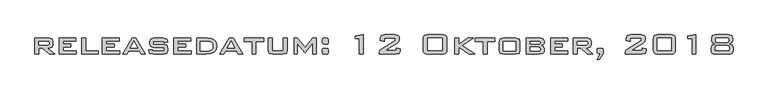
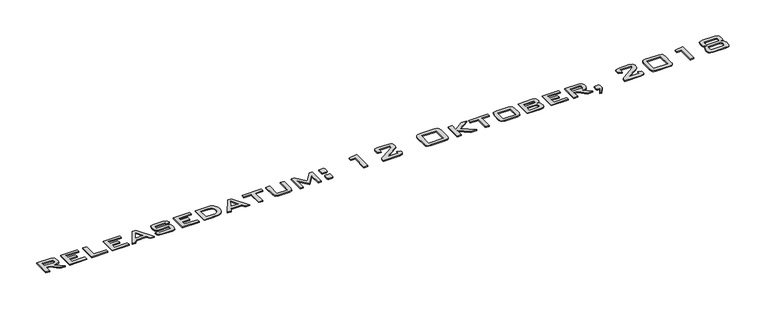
"""IFC4 building model written with IfcOpenShell, lengths in millimetres: flow terminal geometry, ondertitel : versie."""

from ifc_helpers import new_model, si_unit, origin, origin_with_axes, place, context, project, spatial, polyline, outline, extrude, source, transform, mapped, element, save


def flow_terminal_27e1411a(model_context):
    return source(origin(), model_context, "Body", "SweptSolid", [
        extrude(outline(polyline([(-295.5347853, 18.5696186), (-295.5347853, 101.316023), (-221.428821, 101.316023), (-207.1279466, 97.1850097), (-202.6973559, 83.7197983), (-202.6973559, 68.2994509), (-207.1279466, 54.9603773), (-221.428821, 50.8608984), (-232.6550862, 50.8608984), (-194.1830537, 18.5696186), (-222.6271302, 18.5696186), (-256.6843393, 50.8608984), (-275.3527354, 50.8608984), (-275.3527354, 18.5696186), (-295.5347853, 18.5696186)]), holes=[polyline([(-229.9115888, 85.1703832), (-275.3527354, 85.1703832), (-275.3527354, 67.0065383), (-229.9115888, 67.0065383), (-222.8005697, 68.2206147), (-220.8612008, 72.3043264), (-220.8612008, 79.8725951), (-222.8005697, 83.9563067), (-229.9115888, 85.1703832)])]), origin_with_axes(), (0.0, 0.0, 1.0), 5.0),
        extrude(outline(polyline([(-170.4060762, 18.5696186), (-170.4060762, 101.316023), (-83.6232618, 101.316023), (-83.6232618, 87.1885881), (-150.2240263, 87.1885881), (-150.2240263, 71.0429483), (-109.8599266, 71.0429483), (-109.8599266, 54.8973084), (-150.2240263, 54.8973084), (-150.2240263, 34.7152585), (-81.6050568, 34.7152585), (-81.6050568, 18.5696186), (-170.4060762, 18.5696186)])), origin_with_axes(), (0.0, 0.0, 1.0), 5.0),
        extrude(outline(polyline([(-53.350187, 18.5696186), (-53.350187, 101.316023), (-33.1681372, 101.316023), (-33.1681372, 34.7152585), (31.4144224, 34.7152585), (31.4144224, 18.5696186), (-53.350187, 18.5696186)])), origin_with_axes(), (0.0, 0.0, 1.0), 5.0),
        extrude(outline(polyline([(53.6146772, 18.5696186), (53.6146772, 101.316023), (140.3974916, 101.316023), (140.3974916, 87.1885881), (73.7967271, 87.1885881), (73.7967271, 71.0429483), (114.1608268, 71.0429483), (114.1608268, 54.8973084), (73.7967271, 54.8973084), (73.7967271, 34.7152585), (142.4156966, 34.7152585), (142.4156966, 18.5696186), (53.6146772, 18.5696186)])), origin_with_axes(), (0.0, 0.0, 1.0), 5.0),
        extrude(outline(polyline([(158.5613364, 18.5696186), (207.1243939, 101.316023), (226.2973413, 101.316023), (275.6172256, 18.5696186), (253.227764, 18.5696186), (242.9159979, 34.7152585), (188.8028768, 34.7152585), (178.4911107, 18.5696186), (158.5613364, 18.5696186)]), holes=[polyline([(197.2856446, 50.8608984), (234.8116435, 50.8608984), (215.7332995, 86.0218134), (197.2856446, 50.8608984)])]), origin_with_axes(), (0.0, 0.0, 1.0), 5.0),
        extrude(outline(polyline([(372.4910649, 85.1703832), (315.9813253, 85.1703832), (315.9813253, 69.0247433), (369.4637574, 69.0247433), (386.3189225, 64.8779627), (390.6549097, 49.094969), (390.6549097, 38.1209794), (386.2243191, 22.6690975), (369.4637574, 18.5696186), (316.170532, 18.5696186), (298.4324023, 22.6690975), (294.9439034, 28.5818074), (293.7810705, 38.1209794), (293.7810705, 40.0130466), (311.9449153, 42.7880785), (311.9449153, 34.7152585), (372.4910649, 34.7152585), (372.4910649, 52.8791034), (319.4816496, 52.8791034), (302.2953727, 57.0101167), (297.8174804, 72.3358608), (297.8174804, 80.913232), (302.2953727, 96.9642685), (319.4816496, 101.316023), (368.2339137, 101.316023), (385.8932074, 97.1219408), (389.4644842, 91.3196015), (390.6549097, 82.3007479), (390.6549097, 80.4717497), (372.4910649, 77.0975632), (372.4910649, 85.1703832)])), origin_with_axes(), (0.0, 0.0, 1.0), 5.0),
        extrude(outline(polyline([(422.9461895, 18.5696186), (422.9461895, 101.316023), (509.7290039, 101.316023), (509.7290039, 87.1885881), (443.1282394, 87.1885881), (443.1282394, 71.0429483), (483.4923391, 71.0429483), (483.4923391, 54.8973084), (443.1282394, 54.8973084), (443.1282394, 34.7152585), (511.7472089, 34.7152585), (511.7472089, 18.5696186), (422.9461895, 18.5696186)])), origin_with_axes(), (0.0, 0.0, 1.0), 5.0),
        extrude(outline(polyline([(540.0020787, 18.5696186), (540.0020787, 101.316023), (595.6919225, 101.316023), (616.7096353, 98.6513618), (632.2088189, 90.657378), (641.7637582, 77.7203687), (644.9487379, 60.2266309), (641.5706096, 42.0115426), (631.4362248, 28.9917553), (614.474631, 21.1751528), (590.6148756, 18.5696186), (540.0020787, 18.5696186)]), holes=[polyline([(560.1841285, 34.7152585), (586.2946555, 34.7152585), (604.466384, 36.2092032), (616.2208513, 40.6910374), (622.6302289, 48.7126138), (624.7666881, 60.8257855), (622.9928751, 71.5553831), (617.6714361, 79.1473027), (608.6762335, 83.664613), (595.8811292, 85.1703832), (560.1841285, 85.1703832), (560.1841285, 34.7152585)])]), origin_with_axes(), (0.0, 0.0, 1.0), 5.0),
        extrude(outline(polyline([(661.0943778, 18.5696186), (709.6574352, 101.316023), (728.8303826, 101.316023), (778.1502669, 18.5696186), (755.7608054, 18.5696186), (745.4490393, 34.7152585), (691.3359181, 34.7152585), (681.024152, 18.5696186), (661.0943778, 18.5696186)]), holes=[polyline([(699.8186859, 50.8608984), (737.3446849, 50.8608984), (718.2663409, 86.0218134), (699.8186859, 50.8608984)])]), origin_with_axes(), (0.0, 0.0, 1.0), 5.0),
        extrude(outline(polyline([(846.7692364, 85.1703832), (846.7692364, 18.5696186), (826.5871866, 18.5696186), (826.5871866, 85.1703832), (786.2230869, 85.1703832), (786.2230869, 101.316023), (887.1333361, 101.316023), (887.1333361, 85.1703832), (846.7692364, 85.1703832)])), origin_with_axes(), (0.0, 0.0, 1.0), 5.0),
        extrude(outline(polyline([(931.5338458, 101.316023), (931.5338458, 34.7152585), (988.0435854, 34.7152585), (988.0435854, 101.316023), (1008.2256353, 101.316023), (1008.2256353, 38.783203), (1003.7319757, 22.8583042), (986.624535, 18.5696186), (932.9528962, 18.5696186), (915.8139211, 22.8110026), (911.351796, 38.783203), (911.351796, 101.316023), (931.5338458, 101.316023)])), origin_with_axes(), (0.0, 0.0, 1.0), 5.0),
        extrude(outline(polyline([(1044.553325, 18.5696186), (1044.553325, 101.316023), (1060.6989649, 101.316023), (1101.4099436, 52.2168799), (1141.4586988, 101.316023), (1157.5728042, 101.316023), (1157.5728042, 18.5696186), (1139.4089593, 18.5696186), (1139.4089593, 75.5208406), (1102.2613738, 28.5029713), (1098.3195672, 28.5029713), (1060.6989649, 74.1648591), (1060.6989649, 18.5696186), (1044.553325, 18.5696186)])), origin_with_axes(), (0.0, 0.0, 1.0), 5.0),
        extrude(outline(polyline([(1211.938201, 101.316023), (1215.4700597, 101.316023), (1219.0965218, 99.8339038), (1220.1371587, 94.1577022), (1220.1371587, 78.2958724), (1218.9861512, 72.3831625), (1211.938201, 71.0429483), (1194.531183, 71.0429483), (1190.9047209, 72.5723692), (1189.8640839, 78.2958724), (1189.8640839, 94.1577022), (1191.0150915, 99.9758088), (1198.0630417, 101.316023), (1211.938201, 101.316023)])), origin_with_axes(), (0.0, 0.0, 1.0), 5.0),
        extrude(outline(polyline([(1211.938201, 48.8426934), (1215.4700597, 48.8426934), (1219.0965218, 47.3605741), (1220.1371587, 41.6843726), (1220.1371587, 25.8225428), (1218.9861512, 19.9098329), (1211.938201, 18.5696186), (1194.531183, 18.5696186), (1190.9047209, 20.0990396), (1189.8640839, 25.8225428), (1189.8640839, 41.6843726), (1191.0150915, 47.5024792), (1198.0630417, 48.8426934), (1211.938201, 48.8426934)])), origin_with_axes(), (0.0, 0.0, 1.0), 5.0),
        extrude(outline(polyline([(1381.5935576, 18.5696186), (1381.5935576, 99.6762315), (1359.3933027, 99.6762315), (1359.3933027, 113.0468395), (1401.7756074, 119.4798679), (1401.7756074, 18.5696186), (1381.5935576, 18.5696186)])), origin_with_axes(), (0.0, 0.0, 1.0), 5.0),
        extrude(outline(polyline([(1490.5766268, 100.8430063), (1491.7552269, 109.8736852), (1495.2910275, 115.5222941), (1513.7544496, 119.4798679), (1564.74566, 119.4798679), (1582.7991343, 115.5222941), (1586.2876331, 109.8736852), (1587.4504661, 100.8430063), (1587.4504661, 94.5361157), (1585.148451, 83.073342), (1574.0167891, 73.6603079), (1516.3087403, 36.7334635), (1573.3230312, 36.7334635), (1573.3230312, 50.8608984), (1591.486876, 45.8784549), (1591.486876, 38.2786517), (1590.3516357, 28.7394797), (1586.9459148, 22.7637009), (1569.3181556, 18.5696186), (1484.5220118, 18.5696186), (1484.5220118, 27.7461444), (1487.5493193, 37.7741005), (1498.3025677, 45.6892481), (1567.2684162, 89.8059477), (1567.2684162, 103.334228), (1510.7586766, 103.334228), (1510.7586766, 83.1521782), (1490.5766268, 88.1661562), (1490.5766268, 100.8430063)])), origin_with_axes(), (0.0, 0.0, 1.0), 5.0),
        extrude(outline(polyline([(1710.5609702, 95.4190804), (1711.8854172, 107.0789443), (1715.8587583, 114.3712865), (1723.6083501, 118.2027226), (1736.2615493, 119.4798679), (1807.8762918, 119.4798679), (1820.5807345, 118.2027226), (1828.357919, 114.3712865), (1832.3430854, 107.0789443), (1833.6714743, 95.4190804), (1833.6714743, 41.6528382), (1832.3430854, 30.3910967), (1828.357919, 23.4101572), (1820.5807345, 19.7797533), (1807.8762918, 18.5696186), (1736.2615493, 18.5696186), (1723.6083501, 19.7797533), (1715.8587583, 23.4101572), (1711.8854172, 30.3910967), (1710.5609702, 41.6528382), (1710.5609702, 95.4190804)]), holes=[polyline([(1734.77943, 36.7334635), (1809.4530145, 36.7334635), (1809.4530145, 101.316023), (1734.77943, 101.316023), (1734.77943, 36.7334635)])]), origin_with_axes(), (0.0, 0.0, 1.0), 5.0),
        extrude(outline(polyline([(1874.035574, 18.5696186), (1874.035574, 101.316023), (1894.2176238, 101.316023), (1894.2176238, 67.8579685), (1941.9607855, 101.316023), (1970.9094133, 101.316023), (1914.2735359, 63.0016628), (1976.9640282, 18.5696186), (1945.4926442, 18.5696186), (1894.2176238, 55.9379453), (1894.2176238, 18.5696186), (1874.035574, 18.5696186)])), origin_with_axes(), (0.0, 0.0, 1.0), 5.0),
        extrude(outline(polyline([(2041.5465878, 85.1703832), (2041.5465878, 18.5696186), (2021.3645379, 18.5696186), (2021.3645379, 85.1703832), (1981.0004382, 85.1703832), (1981.0004382, 101.316023), (2081.9106875, 101.316023), (2081.9106875, 85.1703832), (2041.5465878, 85.1703832)])), origin_with_axes(), (0.0, 0.0, 1.0), 5.0),
        extrude(outline(polyline([(2104.1109423, 80.9763009), (2108.5099985, 97.0273375), (2125.6174392, 101.316023), (2189.5693097, 101.316023), (2206.724052, 97.0273375), (2211.0758065, 80.9763009), (2211.0758065, 38.3417206), (2206.6294487, 22.7163992), (2189.5693097, 18.5696186), (2125.6174392, 18.5696186), (2108.5099985, 22.7163992), (2104.1109423, 38.3417206), (2104.1109423, 80.9763009)]), holes=[polyline([(2124.2929922, 34.7152585), (2190.8937567, 34.7152585), (2190.8937567, 85.1703832), (2124.2929922, 85.1703832), (2124.2929922, 34.7152585)])]), origin_with_axes(), (0.0, 0.0, 1.0), 5.0),
        extrude(outline(polyline([(2243.3670863, 18.5696186), (2243.3670863, 101.316023), (2316.0224658, 101.316023), (2331.4743477, 97.0746391), (2336.2045156, 83.3098504), (2336.2045156, 76.1515296), (2332.3573124, 67.33765), (2321.194116, 62.6863182), (2332.262709, 57.1204873), (2336.2045156, 46.1307305), (2336.2045156, 36.0081711), (2334.6238512, 28.3886589), (2329.8818578, 22.9371404), (2310.8508155, 18.5696186), (2243.3670863, 18.5696186)]), holes=[polyline([(2307.2558879, 85.1703832), (2263.5491362, 85.1703832), (2263.5491362, 71.0429483), (2307.2558879, 71.0429483), (2314.1777003, 72.0047491), (2316.0224658, 75.3000994), (2316.0224658, 80.9763009), (2314.225002, 84.2401168), (2307.2558879, 85.1703832)]), polyline([(2307.2558879, 54.8973084), (2263.5491362, 54.8973084), (2263.5491362, 34.7152585), (2307.2558879, 34.7152585), (2314.1934675, 36.2604467), (2316.0224658, 41.7474415), (2316.0224658, 47.770522), (2314.1934675, 53.3048185), (2307.2558879, 54.8973084)])]), origin_with_axes(), (0.0, 0.0, 1.0), 5.0),
        extrude(outline(polyline([(2370.5140004, 18.5696186), (2370.5140004, 101.316023), (2457.2968147, 101.316023), (2457.2968147, 87.1885881), (2390.6960502, 87.1885881), (2390.6960502, 71.0429483), (2431.0601499, 71.0429483), (2431.0601499, 54.8973084), (2390.6960502, 54.8973084), (2390.6960502, 34.7152585), (2459.3150197, 34.7152585), (2459.3150197, 18.5696186), (2370.5140004, 18.5696186)])), origin_with_axes(), (0.0, 0.0, 1.0), 5.0),
        extrude(outline(polyline([(2487.5698895, 18.5696186), (2487.5698895, 101.316023), (2561.6758538, 101.316023), (2575.9767282, 97.1850097), (2580.4073189, 83.7197983), (2580.4073189, 68.2994509), (2575.9767282, 54.9603773), (2561.6758538, 50.8608984), (2550.4495886, 50.8608984), (2588.9216211, 18.5696186), (2560.4775446, 18.5696186), (2526.4203355, 50.8608984), (2507.7519394, 50.8608984), (2507.7519394, 18.5696186), (2487.5698895, 18.5696186)]), holes=[polyline([(2553.193086, 85.1703832), (2507.7519394, 85.1703832), (2507.7519394, 67.0065383), (2553.193086, 67.0065383), (2560.3041051, 68.2206147), (2562.243474, 72.3043264), (2562.243474, 79.8725951), (2560.3041051, 83.9563067), (2553.193086, 85.1703832)])]), origin_with_axes(), (0.0, 0.0, 1.0), 5.0),
        extrude(outline(polyline([(2632.9121829, 48.8426934), (2636.1602316, 48.8426934), (2639.8970642, 47.3605741), (2640.9534684, 41.6843726), (2640.9534684, 21.4392539), (2621.5282454, -7.6670462), (2609.9551012, -7.6670462), (2626.5737579, 22.2906841), (2615.3790271, 22.2906841), (2611.7367978, 23.8201051), (2610.6803936, 29.5436083), (2610.6803936, 41.6843726), (2611.7840995, 47.5497809), (2618.7216791, 48.8426934), (2632.9121829, 48.8426934)])), origin_with_axes(), (0.0, 0.0, 1.0), 5.0),
        extrude(outline(polyline([(2762.0457675, 100.8430063), (2763.2243677, 109.8736852), (2766.7601682, 115.5222941), (2785.2235904, 119.4798679), (2836.2148007, 119.4798679), (2854.268275, 115.5222941), (2857.7567739, 109.8736852), (2858.9196068, 100.8430063), (2858.9196068, 94.5361157), (2856.6175918, 83.073342), (2845.4859299, 73.6603079), (2787.7778811, 36.7334635), (2844.7921719, 36.7334635), (2844.7921719, 50.8608984), (2862.9560168, 45.8784549), (2862.9560168, 38.2786517), (2861.8207765, 28.7394797), (2858.4150556, 22.7637009), (2840.7872964, 18.5696186), (2755.9911526, 18.5696186), (2755.9911526, 27.7461444), (2759.0184601, 37.7741005), (2769.7717085, 45.6892481), (2838.737557, 89.8059477), (2838.737557, 103.334228), (2782.2278174, 103.334228), (2782.2278174, 83.1521782), (2762.0457675, 88.1661562), (2762.0457675, 100.8430063)])), origin_with_axes(), (0.0, 0.0, 1.0), 5.0),
        extrude(outline(polyline([(2901.3019115, 96.5543207), (2902.4608027, 107.737226), (2905.9374761, 114.6708638), (2912.6227801, 118.2776169), (2923.407563, 119.4798679), (2992.2157392, 119.4798679), (3003.0202311, 118.2776169), (3009.7015934, 114.6708638), (3013.1664414, 107.737226), (3014.3213907, 96.5543207), (3014.3213907, 42.5358028), (3013.1664414, 30.8483462), (3009.7015934, 23.5993639), (3003.0202311, 19.827055), (2992.2157392, 18.5696186), (2923.407563, 18.5696186), (2912.6227801, 19.827055), (2905.9374761, 23.5993639), (2902.4608027, 30.8483462), (2901.3019115, 42.5358028), (2901.3019115, 96.5543207)]), holes=[polyline([(2921.4839614, 36.7334635), (2994.1393409, 36.7334635), (2994.1393409, 103.334228), (2921.4839614, 103.334228), (2921.4839614, 36.7334635)])]), origin_with_axes(), (0.0, 0.0, 1.0), 5.0),
        extrude(outline(polyline([(3101.1042051, 18.5696186), (3101.1042051, 99.6762315), (3078.9039502, 99.6762315), (3078.9039502, 113.0468395), (3121.2862549, 119.4798679), (3121.2862549, 18.5696186), (3101.1042051, 18.5696186)])), origin_with_axes(), (0.0, 0.0, 1.0), 5.0),
        extrude(outline(polyline([(3288.954941, 119.4798679), (3306.4880968, 115.4907596), (3310.9975236, 100.685334), (3310.9975236, 91.2249981), (3306.9295791, 77.8859245), (3292.644472, 71.4213617), (3308.0805867, 65.2721434), (3313.0157285, 51.1762429), (3313.0157285, 40.3283911), (3311.742525, 29.8826036), (3307.9229144, 23.2682521), (3300.8316043, 19.744277), (3289.7433023, 18.5696186), (3223.2686756, 18.5696186), (3212.1803736, 19.7324516), (3205.0890635, 23.2209504), (3201.2694529, 29.8234765), (3199.9962494, 40.3283911), (3199.9962494, 51.1762429), (3204.9786929, 65.2248417), (3220.3675059, 71.4213617), (3206.1297004, 77.9805279), (3202.0144543, 91.2249981), (3202.0144543, 100.685334), (3206.5238811, 115.4907596), (3224.0570369, 119.4798679), (3288.954941, 119.4798679)]), holes=[polyline([(3280.882121, 103.334228), (3232.350598, 103.334228), (3224.2620109, 101.4106264), (3222.1965042, 93.7792888), (3222.1965042, 88.5761041), (3224.2620109, 81.0393698), (3232.350598, 79.1157682), (3280.882121, 79.1157682), (3288.7972687, 80.9920682), (3290.8154737, 88.5761041), (3290.8154737, 93.7792888), (3288.7972687, 101.4579281), (3280.882121, 103.334228)]), polyline([(3283.1210672, 62.9701283), (3229.8909107, 62.9701283), (3222.1176681, 61.1095956), (3220.1782992, 53.5097925), (3220.1782992, 46.0045927), (3222.0230647, 38.5466946), (3229.8909107, 36.7334635), (3283.1210672, 36.7334635), (3290.9416115, 38.5466946), (3292.8336787, 46.0045927), (3292.8336787, 53.5097925), (3290.8943098, 61.1095956), (3283.1210672, 62.9701283)])]), origin_with_axes(), (0.0, 0.0, 1.0), 5.0),
    ])


if __name__ == "__main__":
    model = new_model("IFC4")
    model_context = context("Model", 3, world=origin())
    ifc_project = project(units=[si_unit("LENGTHUNIT", "METRE", prefix="MILLI")], contexts=[model_context])
    site = spatial("IfcSite", under=ifc_project)
    building = spatial("IfcBuilding", under=site)
    placement = place(None, origin())
    flow_terminal_shape = flow_terminal_27e1411a(model_context)
    element("IfcFlowTerminal", 1, ObjectType="ondertitel : versie", at=placement, inside=building, context=model_context, shape_type="MappedRepresentation", body=[
        mapped(flow_terminal_shape, transform((0.0, 0.0, 0.0), x_axis=(1.0, 0.0, 0.0), y_axis=(0.0, 1.0, 0.0), z_axis=(0.0, 0.0, 1.0))),
    ])
    save(model, "model.ifc")
